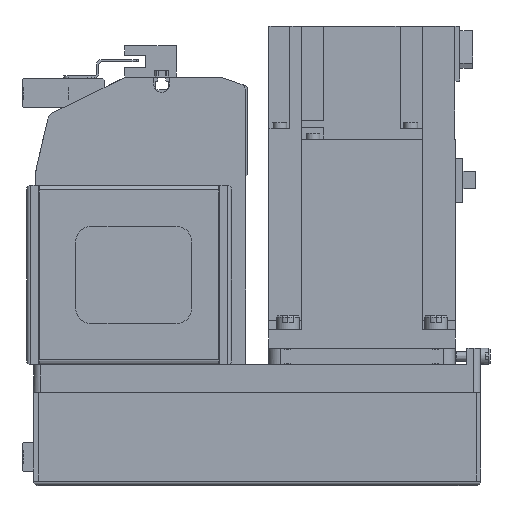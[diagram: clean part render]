
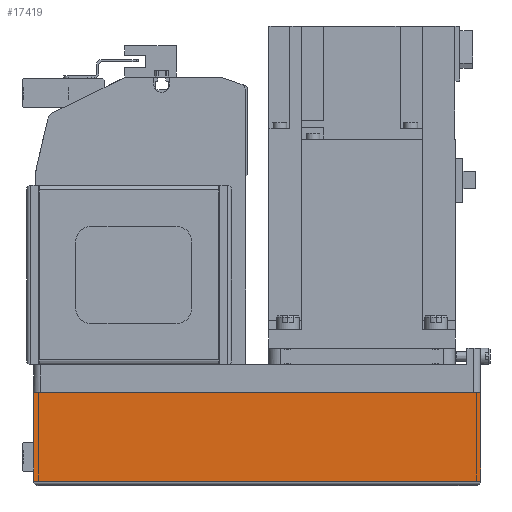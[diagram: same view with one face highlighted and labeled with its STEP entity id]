
A CAD part, left-side view. The second image highlights one B-rep face of the part: STEP entity #17419.
In plain terms, the highlighted planar face has unit normal (-1, 0, 0) as drawn and (0, 1, 0) by its records, which use the part's own axes.
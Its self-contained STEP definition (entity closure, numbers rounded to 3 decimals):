
#2736=ORIENTED_EDGE('',*,*,#7047,.F.);
#2737=ORIENTED_EDGE('',*,*,#7087,.F.);
#2738=ORIENTED_EDGE('',*,*,#7024,.T.);
#2739=ORIENTED_EDGE('',*,*,#7037,.T.);
#7024=EDGE_CURVE('',#9343,#9346,#11130,.T.);
#7037=EDGE_CURVE('',#9346,#9358,#11143,.T.);
#7047=EDGE_CURVE('',#9366,#9358,#11153,.T.);
#7087=EDGE_CURVE('',#9343,#9366,#11171,.T.);
#9343=VERTEX_POINT('',#26772);
#9346=VERTEX_POINT('',#26777);
#9358=VERTEX_POINT('',#26805);
#9366=VERTEX_POINT('',#26825);
#11130=LINE('',#26778,#12756);
#11143=LINE('',#26806,#12769);
#11153=LINE('',#26826,#12779);
#11171=LINE('',#26896,#12797);
#12756=VECTOR('',#21426,1000.);
#12769=VECTOR('',#21445,1000.);
#12779=VECTOR('',#21459,1000.);
#12797=VECTOR('',#21553,1000.);
#14239=EDGE_LOOP('',(#2736,#2737,#2738,#2739));
#15551=FACE_BOUND('',#14239,.T.);
#16696=PLANE('',#18678);
#17419=ADVANCED_FACE('',(#15551),#16696,.T.);
#18678=AXIS2_PLACEMENT_3D('',#26895,#21551,#21552);
#21426=DIRECTION('',(0.,0.,1.));
#21445=DIRECTION('',(1.,0.,0.));
#21459=DIRECTION('',(0.,0.,1.));
#21551=DIRECTION('',(0.,1.,0.));
#21552=DIRECTION('',(0.,0.,1.));
#21553=DIRECTION('',(1.,0.,0.));
#26772=CARTESIAN_POINT('',(-192.,40.,-50.));
#26777=CARTESIAN_POINT('',(-192.,40.,-12.1));
#26778=CARTESIAN_POINT('',(-192.,40.,-50.));
#26805=CARTESIAN_POINT('',(0.,40.,-12.1));
#26806=CARTESIAN_POINT('',(-192.,40.,-12.1));
#26825=CARTESIAN_POINT('',(0.,40.,-50.));
#26826=CARTESIAN_POINT('',(0.,40.,-50.));
#26895=CARTESIAN_POINT('',(-192.,40.,-50.));
#26896=CARTESIAN_POINT('',(-192.,40.,-50.));
